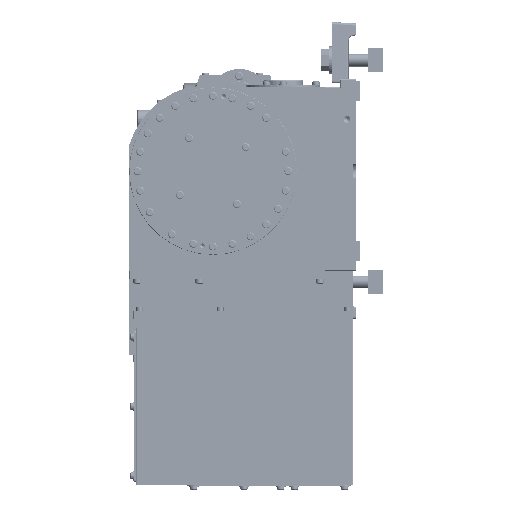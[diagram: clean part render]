
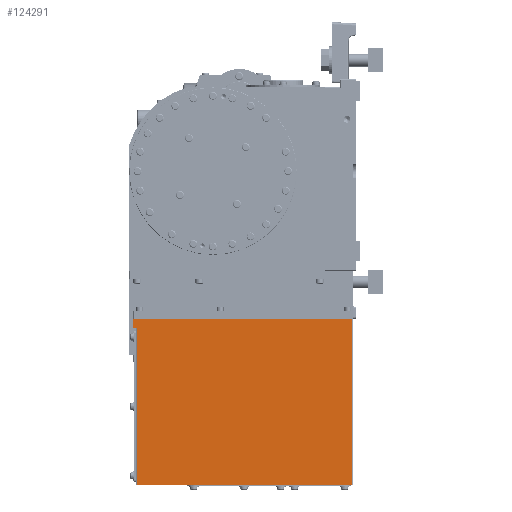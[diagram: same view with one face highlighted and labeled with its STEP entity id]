
A CAD part, left-side view. The second image highlights one B-rep face of the part: STEP entity #124291.
In plain terms, the highlighted planar face has unit normal (-1, 0, 0) as drawn and (0, 0, -1) by its records, which use the part's own axes.
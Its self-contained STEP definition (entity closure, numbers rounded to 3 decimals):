
#1565 = CARTESIAN_POINT ( 'NONE',  ( 0., 276., -177. ) ) ;
#6156 = LINE ( 'NONE', #151135, #165251 ) ;
#9297 = ORIENTED_EDGE ( 'NONE', *, *, #187288, .F. ) ;
#9436 = CARTESIAN_POINT ( 'NONE',  ( 208., 2., -177. ) ) ;
#17280 = CARTESIAN_POINT ( 'NONE',  ( 208., 2., -177. ) ) ;
#20148 = CARTESIAN_POINT ( 'NONE',  ( 12., 276., -177. ) ) ;
#22681 = CARTESIAN_POINT ( 'NONE',  ( 0., 2., -177. ) ) ;
#24655 = VERTEX_POINT ( 'NONE', #36653 ) ;
#32786 = DIRECTION ( 'NONE',  ( 0., 1., 0. ) ) ;
#32802 = CARTESIAN_POINT ( 'NONE',  ( 0., 276., -177. ) ) ;
#33591 = CARTESIAN_POINT ( 'NONE',  ( 208., 276., -177. ) ) ;
#33787 = VECTOR ( 'NONE', #56514, 1000. ) ;
#36653 = CARTESIAN_POINT ( 'NONE',  ( 208., 271., -177. ) ) ;
#40482 = LINE ( 'NONE', #20148, #199554 ) ;
#43517 = VERTEX_POINT ( 'NONE', #9436 ) ;
#48110 = LINE ( 'NONE', #1565, #95302 ) ;
#49565 = DIRECTION ( 'NONE',  ( -1., 0., 0. ) ) ;
#52825 = CARTESIAN_POINT ( 'NONE',  ( 12., 276., -177. ) ) ;
#53665 = VERTEX_POINT ( 'NONE', #32802 ) ;
#55846 = VECTOR ( 'NONE', #49565, 1000. ) ;
#56514 = DIRECTION ( 'NONE',  ( 1., 0., 0. ) ) ;
#58638 = VECTOR ( 'NONE', #80596, 1000. ) ;
#65797 = LINE ( 'NONE', #33591, #55846 ) ;
#68537 = EDGE_CURVE ( 'NONE', #43517, #85988, #185405, .T. ) ;
#77464 = ORIENTED_EDGE ( 'NONE', *, *, #68537, .T. ) ;
#80596 = DIRECTION ( 'NONE',  ( -1., 0., 0. ) ) ;
#84158 = DIRECTION ( 'NONE',  ( 0., 1., 0. ) ) ;
#85988 = VERTEX_POINT ( 'NONE', #22681 ) ;
#91040 = EDGE_CURVE ( 'NONE', #124072, #24655, #197862, .T. ) ;
#92101 = DIRECTION ( 'NONE',  ( 0., 0., 1. ) ) ;
#95302 = VECTOR ( 'NONE', #32786, 1000. ) ;
#102056 = EDGE_CURVE ( 'NONE', #105834, #53665, #65797, .T. ) ;
#105834 = VERTEX_POINT ( 'NONE', #52825 ) ;
#112432 = AXIS2_PLACEMENT_3D ( 'NONE', #187289, #92101, #203266 ) ;
#113481 = EDGE_CURVE ( 'NONE', #85988, #53665, #48110, .T. ) ;
#113621 = EDGE_CURVE ( 'NONE', #124072, #105834, #40482, .T. ) ;
#115568 = ORIENTED_EDGE ( 'NONE', *, *, #113481, .T. ) ;
#123872 = EDGE_LOOP ( 'NONE', ( #126954, #131520, #9297, #77464, #115568, #165162 ) ) ;
#124072 = VERTEX_POINT ( 'NONE', #133860 ) ;
#124291 = ADVANCED_FACE ( 'NONE', ( #147543 ), #154643, .F. ) ;
#126954 = ORIENTED_EDGE ( 'NONE', *, *, #113621, .F. ) ;
#131520 = ORIENTED_EDGE ( 'NONE', *, *, #91040, .T. ) ;
#133860 = CARTESIAN_POINT ( 'NONE',  ( 12., 271., -177. ) ) ;
#147543 = FACE_OUTER_BOUND ( 'NONE', #123872, .T. ) ;
#151135 = CARTESIAN_POINT ( 'NONE',  ( 208., 276., -177. ) ) ;
#154643 = PLANE ( 'NONE',  #112432 ) ;
#165162 = ORIENTED_EDGE ( 'NONE', *, *, #102056, .F. ) ;
#165251 = VECTOR ( 'NONE', #183110, 1000. ) ;
#183110 = DIRECTION ( 'NONE',  ( 0., 1., 0. ) ) ;
#185405 = LINE ( 'NONE', #17280, #58638 ) ;
#187288 = EDGE_CURVE ( 'NONE', #43517, #24655, #6156, .T. ) ;
#187289 = CARTESIAN_POINT ( 'NONE',  ( 208., 276., -177. ) ) ;
#197862 = LINE ( 'NONE', #198955, #33787 ) ;
#198955 = CARTESIAN_POINT ( 'NONE',  ( 208., 271., -177. ) ) ;
#199554 = VECTOR ( 'NONE', #84158, 1000. ) ;
#203266 = DIRECTION ( 'NONE',  ( 0., -1., 0. ) ) ;
